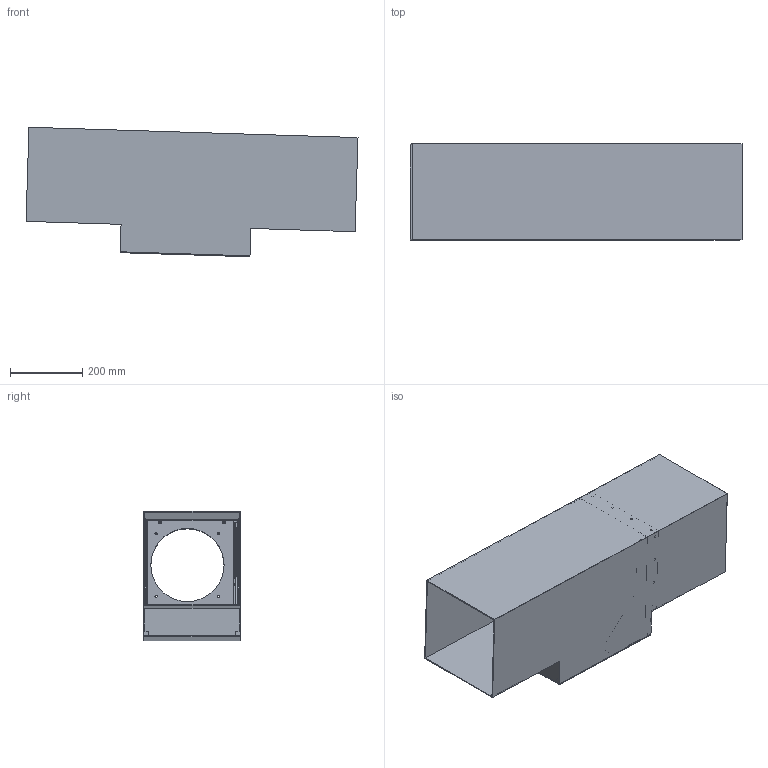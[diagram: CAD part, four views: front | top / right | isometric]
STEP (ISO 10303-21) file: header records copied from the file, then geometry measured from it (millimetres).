
FILE_DESCRIPTION (( 'STEP AP214' ), '1' );
FILE_NAME ('Pivot Fan Assembly.STEP', '2021-04-22T00:19:06', ( '' ), ( '' ), 'SwSTEP 2.0', 'SolidWorks 2020', '' );
FILE_SCHEMA (( 'AUTOMOTIVE_DESIGN' ));
Length unit declared in the file: inch
Products named in the file (15): Bushing; 4.0 Push Rod; 4.0 Locking Slider; Duct Cover; 2.0 Screw; 4.0 Fan Housing; 2.0 Slider; 4.0 Linear Motor Push Rod; 3.0 Pivoting Plate Bottom; 3.0 Fan Housing Cover; Pivot Fan Assembly; Duct; 4.0 Motor; 3.0 Mounting Bracket; 3.0 Pivoting Plate Top
Assembly tree (15 placements, depth 2):
  Pivot Fan Assembly
    Duct
    2.0 Screw
    2.0 Slider
    3.0 Fan Housing Cover
    Duct Cover
    3.0 Mounting Bracket
    3.0 Pivoting Plate Bottom
    3.0 Pivoting Plate Top
    Bushing  x2
    4.0 Fan Housing
    4.0 Motor
    4.0 Locking Slider
    4.0 Linear Motor Push Rod
    4.0 Push Rod
Bounding box: 922.15 x 266.7 x 359.79 mm (x, y, z)
Volume: 3583316.7 mm3; surface area: 2735997.5 mm2
Topology: 17 solids, 17 shells, 757 faces, 2057 edges, 1351 vertices
Faces by surface type: cylinder 385, plane 318, cone 50, bspline 4
Entity records: 30895 total; most frequent: CARTESIAN_POINT 11877, ORIENTED_EDGE 4062, DIRECTION 3556, EDGE_CURVE 2031, VERTEX_POINT 1334, LINE 1200, VECTOR 1200, AXIS2_PLACEMENT_3D 1178
